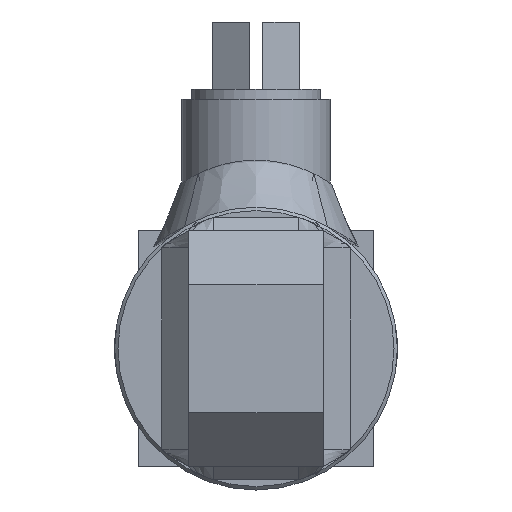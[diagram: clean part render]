
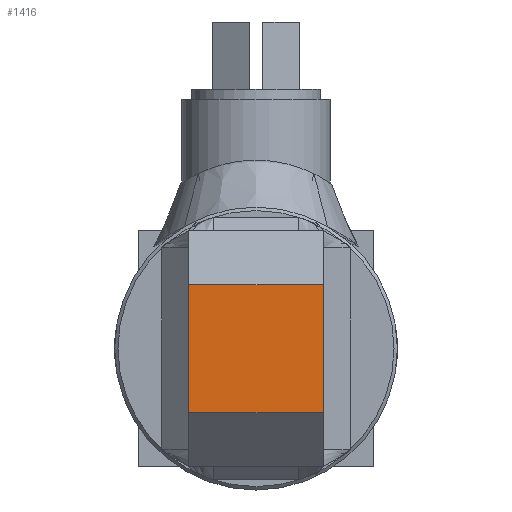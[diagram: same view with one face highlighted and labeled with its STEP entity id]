
A CAD part, left-side view. The second image highlights one B-rep face of the part: STEP entity #1416.
In plain terms, the highlighted planar face has unit normal (-1, 0, 0) as drawn and (1, 0, 0) by its records, which use the part's own axes.
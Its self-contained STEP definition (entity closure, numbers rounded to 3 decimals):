
#1416 = ADVANCED_FACE( '', ( #2595 ), #2596, .F. );
#2595 = FACE_OUTER_BOUND( '', #5954, .T. );
#2596 = PLANE( '', #5955 );
#5954 = EDGE_LOOP( '', ( #8247, #8248, #8249, #8250 ) );
#5955 = AXIS2_PLACEMENT_3D( '', #8251, #8252, #8253 );
#8247 = ORIENTED_EDGE( '', *, *, #9076, .T. );
#8248 = ORIENTED_EDGE( '', *, *, #8948, .T. );
#8249 = ORIENTED_EDGE( '', *, *, #8850, .T. );
#8250 = ORIENTED_EDGE( '', *, *, #9173, .T. );
#8251 = CARTESIAN_POINT( '', ( 42., -10., 17.5 ) );
#8252 = DIRECTION( '', ( -1., 0., 0. ) );
#8253 = DIRECTION( '', ( 0., -1., 0. ) );
#8850 = EDGE_CURVE( '', #10141, #10142, #10143, .T. );
#8948 = EDGE_CURVE( '', #10284, #10141, #10287, .T. );
#9076 = EDGE_CURVE( '', #10454, #10284, #10455, .T. );
#9173 = EDGE_CURVE( '', #10142, #10454, #10566, .T. );
#10141 = VERTEX_POINT( '', #11894 );
#10142 = VERTEX_POINT( '', #11895 );
#10143 = LINE( '', #11896, #11897 );
#10284 = VERTEX_POINT( '', #12190 );
#10287 = LINE( '', #12195, #12196 );
#10454 = VERTEX_POINT( '', #12680 );
#10455 = LINE( '', #12681, #12682 );
#10566 = LINE( '', #13034, #13035 );
#11894 = CARTESIAN_POINT( '', ( 42., -10., 9.5 ) );
#11895 = CARTESIAN_POINT( '', ( 42., -10., -9.5 ) );
#11896 = CARTESIAN_POINT( '', ( 42., -10., 17.5 ) );
#11897 = VECTOR( '', #13580, 1000. );
#12190 = CARTESIAN_POINT( '', ( 42., 10., 9.5 ) );
#12195 = CARTESIAN_POINT( '', ( 42., -10., 9.5 ) );
#12196 = VECTOR( '', #13662, 1000. );
#12680 = CARTESIAN_POINT( '', ( 42., 10., -9.5 ) );
#12681 = CARTESIAN_POINT( '', ( 42., 10., -17.5 ) );
#12682 = VECTOR( '', #13752, 1000. );
#13034 = CARTESIAN_POINT( '', ( 42., -10., -9.5 ) );
#13035 = VECTOR( '', #13792, 1000. );
#13580 = DIRECTION( '', ( 0., 0., -1. ) );
#13662 = DIRECTION( '', ( 0., -1., 0. ) );
#13752 = DIRECTION( '', ( 0., 0., 1. ) );
#13792 = DIRECTION( '', ( 0., 1., 0. ) );
